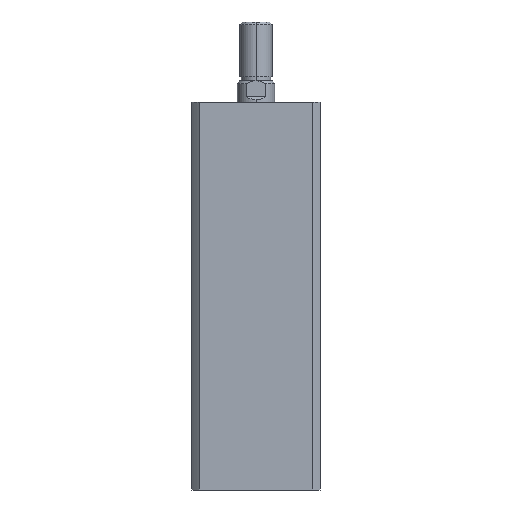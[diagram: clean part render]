
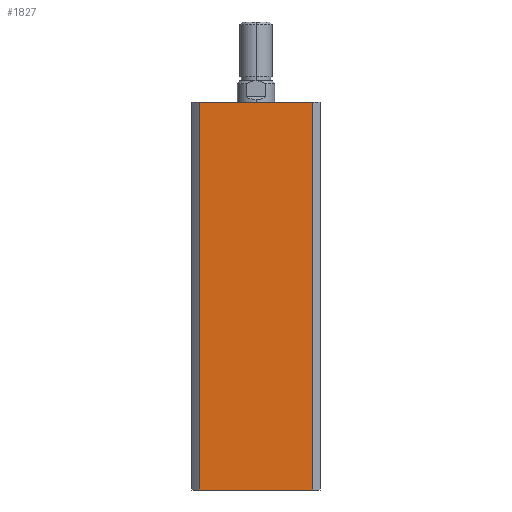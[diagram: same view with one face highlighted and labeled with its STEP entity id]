
A CAD part, left-side view. The second image highlights one B-rep face of the part: STEP entity #1827.
In plain terms, the highlighted planar face has unit normal (-1, 0, 0).
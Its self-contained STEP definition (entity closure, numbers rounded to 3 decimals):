
#199 = PLANE ( 'NONE',  #3895 ) ;
#538 = LINE ( 'NONE', #2089, #540 ) ;
#540 = VECTOR ( 'NONE', #2090, 1000. ) ;
#587 = LINE ( 'NONE', #2322, #604 ) ;
#603 = LINE ( 'NONE', #2329, #607 ) ;
#604 = VECTOR ( 'NONE', #2326, 1000. ) ;
#605 = LINE ( 'NONE', #2328, #609 ) ;
#607 = VECTOR ( 'NONE', #2327, 1000. ) ;
#609 = VECTOR ( 'NONE', #2333, 1000. ) ;
#1098 = ORIENTED_EDGE ( 'NONE', *, *, #3142, .F. ) ;
#1142 = ORIENTED_EDGE ( 'NONE', *, *, #3140, .T. ) ;
#1343 = CARTESIAN_POINT ( 'NONE',  ( -24., 21.166, 0. ) ) ;
#1355 = CARTESIAN_POINT ( 'NONE',  ( -24., -21.166, 0. ) ) ;
#1463 = CARTESIAN_POINT ( 'NONE',  ( -24., 21.166, 145. ) ) ;
#1472 = DIRECTION ( 'NONE',  ( 1., 0., 0. ) ) ;
#1498 = CARTESIAN_POINT ( 'NONE',  ( -24., -21.166, 145. ) ) ;
#1827 = ADVANCED_FACE ( 'NONE', ( #3251 ), #199, .F. ) ;
#2089 = CARTESIAN_POINT ( 'NONE',  ( -24., 0., 145. ) ) ;
#2090 = DIRECTION ( 'NONE',  ( 0., -1., 0. ) ) ;
#2322 = CARTESIAN_POINT ( 'NONE',  ( -24., 0., 0. ) ) ;
#2326 = DIRECTION ( 'NONE',  ( 0., -1., 0. ) ) ;
#2327 = DIRECTION ( 'NONE',  ( 0., 0., -1. ) ) ;
#2328 = CARTESIAN_POINT ( 'NONE',  ( -24., 21.166, 145. ) ) ;
#2329 = CARTESIAN_POINT ( 'NONE',  ( -24., -21.166, 145. ) ) ;
#2333 = DIRECTION ( 'NONE',  ( 0., 0., -1. ) ) ;
#3086 = EDGE_CURVE ( 'NONE', #3874, #5161, #538, .T. ) ;
#3140 = EDGE_CURVE ( 'NONE', #3763, #3770, #587, .T. ) ;
#3142 = EDGE_CURVE ( 'NONE', #5161, #3770, #603, .T. ) ;
#3143 = EDGE_CURVE ( 'NONE', #3874, #3763, #605, .T. ) ;
#3251 = FACE_OUTER_BOUND ( 'NONE', #3726, .T. ) ;
#3726 = EDGE_LOOP ( 'NONE', ( #1142, #1098, #5007, #5011 ) ) ;
#3763 = VERTEX_POINT ( 'NONE', #1343 ) ;
#3770 = VERTEX_POINT ( 'NONE', #1355 ) ;
#3874 = VERTEX_POINT ( 'NONE', #1463 ) ;
#3886 = CARTESIAN_POINT ( 'NONE',  ( -24., 0., 145. ) ) ;
#3895 = AXIS2_PLACEMENT_3D ( 'NONE', #3886, #1472, #3936 ) ;
#3936 = DIRECTION ( 'NONE',  ( 0., 0., -1. ) ) ;
#5007 = ORIENTED_EDGE ( 'NONE', *, *, #3086, .F. ) ;
#5011 = ORIENTED_EDGE ( 'NONE', *, *, #3143, .T. ) ;
#5161 = VERTEX_POINT ( 'NONE', #1498 ) ;
